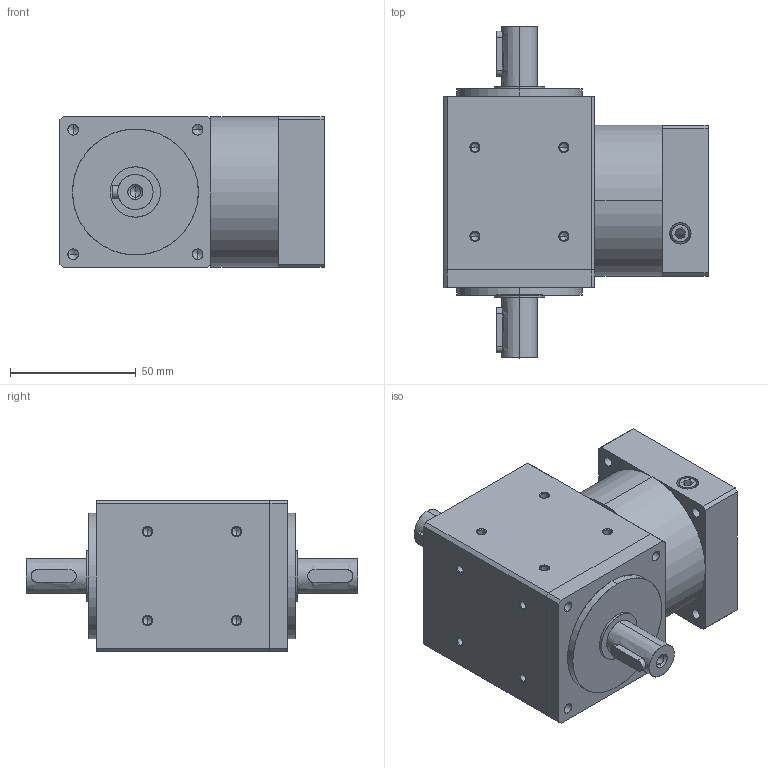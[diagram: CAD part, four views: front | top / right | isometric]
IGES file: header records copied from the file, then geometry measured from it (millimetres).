
Start section: SolidWorks IGES file using analytic representation for surfaces
Global section: file name: C:\Users\render\Documents\CAD Files\R-Gearboxes\RLBS\RLBS-060.IGS; native system: SolidWorks 2009; preprocessor: SolidWorks 2009; author: render; date: 100527.145335; units: millimetre
Bounding box: 105 x 132 x 60 mm (x, y, z)
Surface area: 61764.1 mm2 (no closed solid volume)
Topology: 0 solids, 0 shells, 227 faces, 3671 edges, 3627 vertices
Faces by surface type: revolution 177, bspline 50
